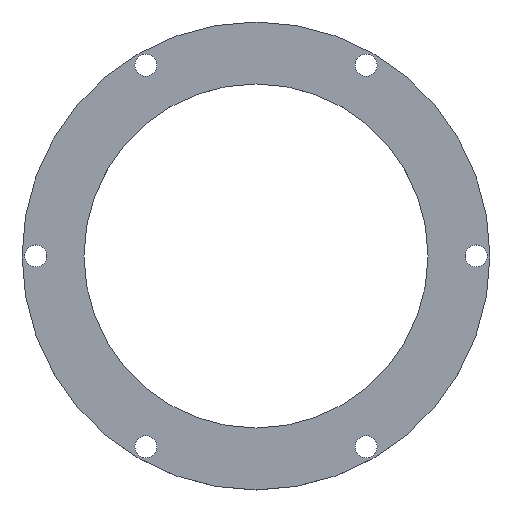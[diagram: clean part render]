
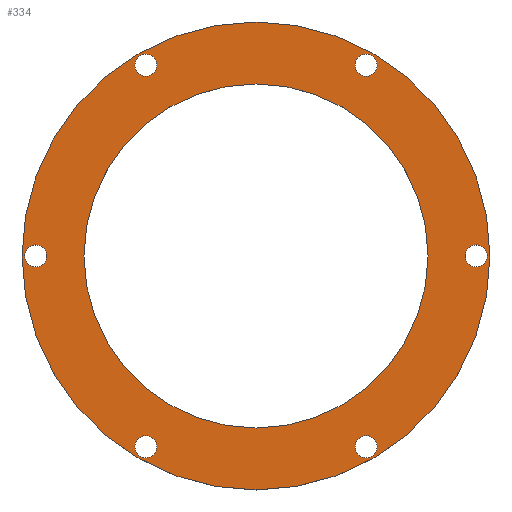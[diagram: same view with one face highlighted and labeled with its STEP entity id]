
A CAD part, top view. The second image highlights one B-rep face of the part: STEP entity #334.
In plain terms, the highlighted planar face has unit normal (0, 0, 1).
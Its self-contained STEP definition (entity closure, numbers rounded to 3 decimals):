
#24 = VERTEX_POINT('',#25);
#25 = CARTESIAN_POINT('',(-34.,0.,16.));
#32 = CYLINDRICAL_SURFACE('',#33,34.);
#33 = AXIS2_PLACEMENT_3D('',#34,#35,#36);
#34 = CARTESIAN_POINT('',(0.,0.,12.));
#35 = DIRECTION('',(0.,-0.,-1.));
#36 = DIRECTION('',(-1.,-0.,-0.));
#51 = EDGE_CURVE('',#24,#24,#52,.T.);
#52 = SURFACE_CURVE('',#53,(#58,#65),.PCURVE_S1.);
#53 = CIRCLE('',#54,34.);
#54 = AXIS2_PLACEMENT_3D('',#55,#56,#57);
#55 = CARTESIAN_POINT('',(0.,0.,16.));
#56 = DIRECTION('',(0.,0.,-1.));
#57 = DIRECTION('',(-1.,-0.,-0.));
#58 = PCURVE('',#32,#59);
#59 = DEFINITIONAL_REPRESENTATION('',(#60),#64);
#60 = LINE('',#61,#62);
#61 = CARTESIAN_POINT('',(0.,-4.));
#62 = VECTOR('',#63,1.);
#63 = DIRECTION('',(1.,0.));
#64 = ( GEOMETRIC_REPRESENTATION_CONTEXT(2) 
PARAMETRIC_REPRESENTATION_CONTEXT() REPRESENTATION_CONTEXT('2D SPACE',''
  ) );
#65 = PCURVE('',#66,#71);
#66 = PLANE('',#67);
#67 = AXIS2_PLACEMENT_3D('',#68,#69,#70);
#68 = CARTESIAN_POINT('',(0.,0.,16.));
#69 = DIRECTION('',(-0.,-0.,1.));
#70 = DIRECTION('',(1.,0.,0.));
#71 = DEFINITIONAL_REPRESENTATION('',(#72),#80);
#72 = ( BOUNDED_CURVE() B_SPLINE_CURVE(2,(#73,#74,#75,#76,#77,#78,#79),
.UNSPECIFIED.,.T.,.F.) B_SPLINE_CURVE_WITH_KNOTS((1,2,2,2,2,1),(
    -2.094,0.,2.094,4.189,6.283,
8.378),.UNSPECIFIED.) CURVE() GEOMETRIC_REPRESENTATION_ITEM() 
RATIONAL_B_SPLINE_CURVE((1.,0.5,1.,0.5,1.,0.5,1.)) REPRESENTATION_ITEM(
  '') );
#73 = CARTESIAN_POINT('',(-34.,0.));
#74 = CARTESIAN_POINT('',(-34.,58.89));
#75 = CARTESIAN_POINT('',(17.,29.445));
#76 = CARTESIAN_POINT('',(68.,0.));
#77 = CARTESIAN_POINT('',(17.,-29.445));
#78 = CARTESIAN_POINT('',(-34.,-58.89));
#79 = CARTESIAN_POINT('',(-34.,0.));
#80 = ( GEOMETRIC_REPRESENTATION_CONTEXT(2) 
PARAMETRIC_REPRESENTATION_CONTEXT() REPRESENTATION_CONTEXT('2D SPACE',''
  ) );
#137 = CYLINDRICAL_SURFACE('',#138,1.6);
#138 = AXIS2_PLACEMENT_3D('',#139,#140,#141);
#139 = CARTESIAN_POINT('',(16.,-27.713,11.));
#140 = DIRECTION('',(0.,-0.,-1.));
#141 = DIRECTION('',(-1.,-0.,-0.));
#168 = CYLINDRICAL_SURFACE('',#169,1.6);
#169 = AXIS2_PLACEMENT_3D('',#170,#171,#172);
#170 = CARTESIAN_POINT('',(-16.,-27.713,11.));
#171 = DIRECTION('',(0.,-0.,-1.));
#172 = DIRECTION('',(-1.,-0.,-0.));
#199 = CYLINDRICAL_SURFACE('',#200,1.6);
#200 = AXIS2_PLACEMENT_3D('',#201,#202,#203);
#201 = CARTESIAN_POINT('',(32.,0.,11.));
#202 = DIRECTION('',(0.,-0.,-1.));
#203 = DIRECTION('',(-1.,-0.,-0.));
#230 = CYLINDRICAL_SURFACE('',#231,1.6);
#231 = AXIS2_PLACEMENT_3D('',#232,#233,#234);
#232 = CARTESIAN_POINT('',(16.,27.713,11.));
#233 = DIRECTION('',(0.,-0.,-1.));
#234 = DIRECTION('',(-1.,-0.,-0.));
#261 = CYLINDRICAL_SURFACE('',#262,25.);
#262 = AXIS2_PLACEMENT_3D('',#263,#264,#265);
#263 = CARTESIAN_POINT('',(0.,0.,11.));
#264 = DIRECTION('',(0.,-0.,-1.));
#265 = DIRECTION('',(-1.,-0.,-0.));
#292 = CYLINDRICAL_SURFACE('',#293,1.6);
#293 = AXIS2_PLACEMENT_3D('',#294,#295,#296);
#294 = CARTESIAN_POINT('',(-32.,0.,11.));
#295 = DIRECTION('',(0.,-0.,-1.));
#296 = DIRECTION('',(-1.,-0.,-0.));
#323 = CYLINDRICAL_SURFACE('',#324,1.6);
#324 = AXIS2_PLACEMENT_3D('',#325,#326,#327);
#325 = CARTESIAN_POINT('',(-16.,27.713,11.));
#326 = DIRECTION('',(0.,-0.,-1.));
#327 = DIRECTION('',(-1.,-0.,-0.));
#334 = ADVANCED_FACE('',(#335,#338,#364,#390,#416,#442,#468,#494),#66,
  .T.);
#335 = FACE_BOUND('',#336,.F.);
#336 = EDGE_LOOP('',(#337));
#337 = ORIENTED_EDGE('',*,*,#51,.T.);
#338 = FACE_BOUND('',#339,.F.);
#339 = EDGE_LOOP('',(#340));
#340 = ORIENTED_EDGE('',*,*,#341,.T.);
#341 = EDGE_CURVE('',#342,#342,#344,.T.);
#342 = VERTEX_POINT('',#343);
#343 = CARTESIAN_POINT('',(14.4,-27.713,16.));
#344 = SURFACE_CURVE('',#345,(#350,#357),.PCURVE_S1.);
#345 = CIRCLE('',#346,1.6);
#346 = AXIS2_PLACEMENT_3D('',#347,#348,#349);
#347 = CARTESIAN_POINT('',(16.,-27.713,16.));
#348 = DIRECTION('',(0.,0.,1.));
#349 = DIRECTION('',(-1.,-0.,-0.));
#350 = PCURVE('',#66,#351);
#351 = DEFINITIONAL_REPRESENTATION('',(#352),#356);
#352 = CIRCLE('',#353,1.6);
#353 = AXIS2_PLACEMENT_2D('',#354,#355);
#354 = CARTESIAN_POINT('',(16.,-27.713));
#355 = DIRECTION('',(-1.,0.));
#356 = ( GEOMETRIC_REPRESENTATION_CONTEXT(2) 
PARAMETRIC_REPRESENTATION_CONTEXT() REPRESENTATION_CONTEXT('2D SPACE',''
  ) );
#357 = PCURVE('',#137,#358);
#358 = DEFINITIONAL_REPRESENTATION('',(#359),#363);
#359 = LINE('',#360,#361);
#360 = CARTESIAN_POINT('',(6.283,-5.));
#361 = VECTOR('',#362,1.);
#362 = DIRECTION('',(-1.,0.));
#363 = ( GEOMETRIC_REPRESENTATION_CONTEXT(2) 
PARAMETRIC_REPRESENTATION_CONTEXT() REPRESENTATION_CONTEXT('2D SPACE',''
  ) );
#364 = FACE_BOUND('',#365,.F.);
#365 = EDGE_LOOP('',(#366));
#366 = ORIENTED_EDGE('',*,*,#367,.T.);
#367 = EDGE_CURVE('',#368,#368,#370,.T.);
#368 = VERTEX_POINT('',#369);
#369 = CARTESIAN_POINT('',(-17.6,-27.713,16.));
#370 = SURFACE_CURVE('',#371,(#376,#383),.PCURVE_S1.);
#371 = CIRCLE('',#372,1.6);
#372 = AXIS2_PLACEMENT_3D('',#373,#374,#375);
#373 = CARTESIAN_POINT('',(-16.,-27.713,16.));
#374 = DIRECTION('',(0.,0.,1.));
#375 = DIRECTION('',(-1.,-0.,-0.));
#376 = PCURVE('',#66,#377);
#377 = DEFINITIONAL_REPRESENTATION('',(#378),#382);
#378 = CIRCLE('',#379,1.6);
#379 = AXIS2_PLACEMENT_2D('',#380,#381);
#380 = CARTESIAN_POINT('',(-16.,-27.713));
#381 = DIRECTION('',(-1.,0.));
#382 = ( GEOMETRIC_REPRESENTATION_CONTEXT(2) 
PARAMETRIC_REPRESENTATION_CONTEXT() REPRESENTATION_CONTEXT('2D SPACE',''
  ) );
#383 = PCURVE('',#168,#384);
#384 = DEFINITIONAL_REPRESENTATION('',(#385),#389);
#385 = LINE('',#386,#387);
#386 = CARTESIAN_POINT('',(6.283,-5.));
#387 = VECTOR('',#388,1.);
#388 = DIRECTION('',(-1.,0.));
#389 = ( GEOMETRIC_REPRESENTATION_CONTEXT(2) 
PARAMETRIC_REPRESENTATION_CONTEXT() REPRESENTATION_CONTEXT('2D SPACE',''
  ) );
#390 = FACE_BOUND('',#391,.F.);
#391 = EDGE_LOOP('',(#392));
#392 = ORIENTED_EDGE('',*,*,#393,.T.);
#393 = EDGE_CURVE('',#394,#394,#396,.T.);
#394 = VERTEX_POINT('',#395);
#395 = CARTESIAN_POINT('',(30.4,0.,16.));
#396 = SURFACE_CURVE('',#397,(#402,#409),.PCURVE_S1.);
#397 = CIRCLE('',#398,1.6);
#398 = AXIS2_PLACEMENT_3D('',#399,#400,#401);
#399 = CARTESIAN_POINT('',(32.,0.,16.));
#400 = DIRECTION('',(0.,0.,1.));
#401 = DIRECTION('',(-1.,-0.,-0.));
#402 = PCURVE('',#66,#403);
#403 = DEFINITIONAL_REPRESENTATION('',(#404),#408);
#404 = CIRCLE('',#405,1.6);
#405 = AXIS2_PLACEMENT_2D('',#406,#407);
#406 = CARTESIAN_POINT('',(32.,0.));
#407 = DIRECTION('',(-1.,0.));
#408 = ( GEOMETRIC_REPRESENTATION_CONTEXT(2) 
PARAMETRIC_REPRESENTATION_CONTEXT() REPRESENTATION_CONTEXT('2D SPACE',''
  ) );
#409 = PCURVE('',#199,#410);
#410 = DEFINITIONAL_REPRESENTATION('',(#411),#415);
#411 = LINE('',#412,#413);
#412 = CARTESIAN_POINT('',(6.283,-5.));
#413 = VECTOR('',#414,1.);
#414 = DIRECTION('',(-1.,0.));
#415 = ( GEOMETRIC_REPRESENTATION_CONTEXT(2) 
PARAMETRIC_REPRESENTATION_CONTEXT() REPRESENTATION_CONTEXT('2D SPACE',''
  ) );
#416 = FACE_BOUND('',#417,.F.);
#417 = EDGE_LOOP('',(#418));
#418 = ORIENTED_EDGE('',*,*,#419,.T.);
#419 = EDGE_CURVE('',#420,#420,#422,.T.);
#420 = VERTEX_POINT('',#421);
#421 = CARTESIAN_POINT('',(14.4,27.713,16.));
#422 = SURFACE_CURVE('',#423,(#428,#435),.PCURVE_S1.);
#423 = CIRCLE('',#424,1.6);
#424 = AXIS2_PLACEMENT_3D('',#425,#426,#427);
#425 = CARTESIAN_POINT('',(16.,27.713,16.));
#426 = DIRECTION('',(0.,0.,1.));
#427 = DIRECTION('',(-1.,-0.,-0.));
#428 = PCURVE('',#66,#429);
#429 = DEFINITIONAL_REPRESENTATION('',(#430),#434);
#430 = CIRCLE('',#431,1.6);
#431 = AXIS2_PLACEMENT_2D('',#432,#433);
#432 = CARTESIAN_POINT('',(16.,27.713));
#433 = DIRECTION('',(-1.,0.));
#434 = ( GEOMETRIC_REPRESENTATION_CONTEXT(2) 
PARAMETRIC_REPRESENTATION_CONTEXT() REPRESENTATION_CONTEXT('2D SPACE',''
  ) );
#435 = PCURVE('',#230,#436);
#436 = DEFINITIONAL_REPRESENTATION('',(#437),#441);
#437 = LINE('',#438,#439);
#438 = CARTESIAN_POINT('',(6.283,-5.));
#439 = VECTOR('',#440,1.);
#440 = DIRECTION('',(-1.,0.));
#441 = ( GEOMETRIC_REPRESENTATION_CONTEXT(2) 
PARAMETRIC_REPRESENTATION_CONTEXT() REPRESENTATION_CONTEXT('2D SPACE',''
  ) );
#442 = FACE_BOUND('',#443,.F.);
#443 = EDGE_LOOP('',(#444));
#444 = ORIENTED_EDGE('',*,*,#445,.T.);
#445 = EDGE_CURVE('',#446,#446,#448,.T.);
#446 = VERTEX_POINT('',#447);
#447 = CARTESIAN_POINT('',(-25.,0.,16.));
#448 = SURFACE_CURVE('',#449,(#454,#461),.PCURVE_S1.);
#449 = CIRCLE('',#450,25.);
#450 = AXIS2_PLACEMENT_3D('',#451,#452,#453);
#451 = CARTESIAN_POINT('',(0.,0.,16.));
#452 = DIRECTION('',(0.,0.,1.));
#453 = DIRECTION('',(-1.,-0.,-0.));
#454 = PCURVE('',#66,#455);
#455 = DEFINITIONAL_REPRESENTATION('',(#456),#460);
#456 = CIRCLE('',#457,25.);
#457 = AXIS2_PLACEMENT_2D('',#458,#459);
#458 = CARTESIAN_POINT('',(0.,0.));
#459 = DIRECTION('',(-1.,0.));
#460 = ( GEOMETRIC_REPRESENTATION_CONTEXT(2) 
PARAMETRIC_REPRESENTATION_CONTEXT() REPRESENTATION_CONTEXT('2D SPACE',''
  ) );
#461 = PCURVE('',#261,#462);
#462 = DEFINITIONAL_REPRESENTATION('',(#463),#467);
#463 = LINE('',#464,#465);
#464 = CARTESIAN_POINT('',(6.283,-5.));
#465 = VECTOR('',#466,1.);
#466 = DIRECTION('',(-1.,0.));
#467 = ( GEOMETRIC_REPRESENTATION_CONTEXT(2) 
PARAMETRIC_REPRESENTATION_CONTEXT() REPRESENTATION_CONTEXT('2D SPACE',''
  ) );
#468 = FACE_BOUND('',#469,.F.);
#469 = EDGE_LOOP('',(#470));
#470 = ORIENTED_EDGE('',*,*,#471,.T.);
#471 = EDGE_CURVE('',#472,#472,#474,.T.);
#472 = VERTEX_POINT('',#473);
#473 = CARTESIAN_POINT('',(-33.6,0.,16.));
#474 = SURFACE_CURVE('',#475,(#480,#487),.PCURVE_S1.);
#475 = CIRCLE('',#476,1.6);
#476 = AXIS2_PLACEMENT_3D('',#477,#478,#479);
#477 = CARTESIAN_POINT('',(-32.,0.,16.));
#478 = DIRECTION('',(0.,0.,1.));
#479 = DIRECTION('',(-1.,-0.,-0.));
#480 = PCURVE('',#66,#481);
#481 = DEFINITIONAL_REPRESENTATION('',(#482),#486);
#482 = CIRCLE('',#483,1.6);
#483 = AXIS2_PLACEMENT_2D('',#484,#485);
#484 = CARTESIAN_POINT('',(-32.,0.));
#485 = DIRECTION('',(-1.,0.));
#486 = ( GEOMETRIC_REPRESENTATION_CONTEXT(2) 
PARAMETRIC_REPRESENTATION_CONTEXT() REPRESENTATION_CONTEXT('2D SPACE',''
  ) );
#487 = PCURVE('',#292,#488);
#488 = DEFINITIONAL_REPRESENTATION('',(#489),#493);
#489 = LINE('',#490,#491);
#490 = CARTESIAN_POINT('',(6.283,-5.));
#491 = VECTOR('',#492,1.);
#492 = DIRECTION('',(-1.,0.));
#493 = ( GEOMETRIC_REPRESENTATION_CONTEXT(2) 
PARAMETRIC_REPRESENTATION_CONTEXT() REPRESENTATION_CONTEXT('2D SPACE',''
  ) );
#494 = FACE_BOUND('',#495,.F.);
#495 = EDGE_LOOP('',(#496));
#496 = ORIENTED_EDGE('',*,*,#497,.T.);
#497 = EDGE_CURVE('',#498,#498,#500,.T.);
#498 = VERTEX_POINT('',#499);
#499 = CARTESIAN_POINT('',(-17.6,27.713,16.));
#500 = SURFACE_CURVE('',#501,(#506,#513),.PCURVE_S1.);
#501 = CIRCLE('',#502,1.6);
#502 = AXIS2_PLACEMENT_3D('',#503,#504,#505);
#503 = CARTESIAN_POINT('',(-16.,27.713,16.));
#504 = DIRECTION('',(0.,0.,1.));
#505 = DIRECTION('',(-1.,-0.,-0.));
#506 = PCURVE('',#66,#507);
#507 = DEFINITIONAL_REPRESENTATION('',(#508),#512);
#508 = CIRCLE('',#509,1.6);
#509 = AXIS2_PLACEMENT_2D('',#510,#511);
#510 = CARTESIAN_POINT('',(-16.,27.713));
#511 = DIRECTION('',(-1.,0.));
#512 = ( GEOMETRIC_REPRESENTATION_CONTEXT(2) 
PARAMETRIC_REPRESENTATION_CONTEXT() REPRESENTATION_CONTEXT('2D SPACE',''
  ) );
#513 = PCURVE('',#323,#514);
#514 = DEFINITIONAL_REPRESENTATION('',(#515),#519);
#515 = LINE('',#516,#517);
#516 = CARTESIAN_POINT('',(6.283,-5.));
#517 = VECTOR('',#518,1.);
#518 = DIRECTION('',(-1.,0.));
#519 = ( GEOMETRIC_REPRESENTATION_CONTEXT(2) 
PARAMETRIC_REPRESENTATION_CONTEXT() REPRESENTATION_CONTEXT('2D SPACE',''
  ) );
